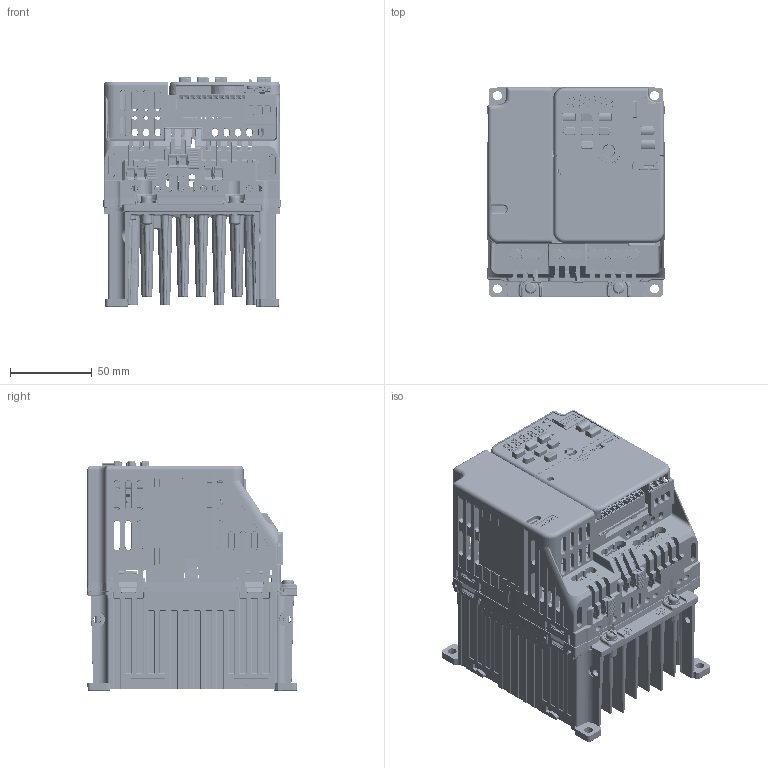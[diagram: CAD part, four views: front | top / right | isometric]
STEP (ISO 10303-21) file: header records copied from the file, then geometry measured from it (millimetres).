
FILE_DESCRIPTION((''),'2;1');
FILE_NAME('GA500_STD_FRAME_V2-G_ASM','2019-03-08T',('anm'),('YASKAWA ELECTRIC CORCORATION'),'PRO/ENGINEER BY PARAMETRIC TECHNOLOGY CORPORATION, 2015440','PRO/ENGINEER BY PARAMETRIC TECHNOLOGY CORPORATION, 2015440','');
FILE_SCHEMA(('CONFIG_CONTROL_DESIGN'));
Products named in the file (129): LAY_KIPR-GA50_Q_B006_1; 400-104-198_AF0_1; SCAT41279-1_1; 400-104-226_AF0_1; 400-104-297-01C-4_6PCB_AF0_1; MKDS5NHV_5-ZB-6P35_AF0_1; MKDS5NHV_2-ZB-6P35_AF0_1; ETP761330_6PCB_AF0_ASM_1_ASM; 400-104-297-01C-4_5PCB_AF0_1; MKDS5NHV_2-ZB-6P35_AF1_1; ETP761330_5PCB_AF0_ASM_1_ASM; 400-104-154_AF1_1; 400-104-154_AF0_ASM_1_ASM; 400-104-023-01F-5_1; 95003-2884_1; B12B-PASK-1_1; MANIFOLD_SOLID_BREP_354645; MANIFOLD_SOLID_BREP_354796; MANIFOLD_SOLID_BREP_354947; MANIFOLD_SOLID_BREP_355098; MANIFOLD_SOLID_BREP_355251; MANIFOLD_SOLID_BREP_355402; MANIFOLD_SOLID_BREP_355553; MANIFOLD_SOLID_BREP_355704; MANIFOLD_SOLID_BREP_355855; MANIFOLD_SOLID_BREP_356006; MANIFOLD_SOLID_BREP_356157; 1734753-1_AF1_1_ASM; MANIFOLD_SOLID_BREP_366076; MANIFOLD_SOLID_BREP_366260; MANIFOLD_SOLID_BREP_366444; MANIFOLD_SOLID_BREP_366628; MANIFOLD_SOLID_BREP_366812; MANIFOLD_SOLID_BREP_366963; MANIFOLD_SOLID_BREP_367114; MANIFOLD_SOLID_BREP_367265; MANIFOLD_SOLID_BREP_367416; MANIFOLD_SOLID_BREP_367567; MANIFOLD_SOLID_BREP_367718; MANIFOLD_SOLID_BREP_367869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
Assembly tree (131 placements, depth 6):
  GA500_STD_FRAME_V2-G_ASM
    KIPR-GA50_Q_B006_ASM_2_ASM
      LAY_KIPR-GA50_Q_B006_1
      400-104-198_AF0_1
      SCAT41279-1_1  x2
      400-104-226_AF0_1
      ETP761330_6PCB_AF0_ASM_1_ASM
        400-104-297-01C-4_6PCB_AF0_1
        MKDS5NHV_5-ZB-6P35_AF0_1
        MKDS5NHV_2-ZB-6P35_AF0_1
      ETP761330_5PCB_AF0_ASM_1_ASM
        400-104-297-01C-4_5PCB_AF0_1
        MKDS5NHV_2-ZB-6P35_AF1_1
      400-104-154_AF0_ASM_1_ASM
        400-104-154_AF1_1
      KTC750050-SXXXX_ASM_1_ASM
        400-104-023-01F-5_1
        95003-2884_1
        B12B-PASK-1_1
        1734753-1_AF1_1_ASM
          MANIFOLD_SOLID_BREP_354645
          MANIFOLD_SOLID_BREP_354796
          MANIFOLD_SOLID_BREP_354947
          MANIFOLD_SOLID_BREP_355098
          MANIFOLD_SOLID_BREP_355251
          MANIFOLD_SOLID_BREP_355402
          MANIFOLD_SOLID_BREP_355553
          MANIFOLD_SOLID_BREP_355704
          MANIFOLD_SOLID_BREP_355855
          MANIFOLD_SOLID_BREP_356006
          MANIFOLD_SOLID_BREP_356157
        DHB-PD20-S131N-4P9_AF1_1_ASM
          MANIFOLD_SOLID_BREP_366076
          MANIFOLD_SOLID_BREP_366260
          MANIFOLD_SOLID_BREP_366444
          MANIFOLD_SOLID_BREP_366628
          MANIFOLD_SOLID_BREP_366812
          MANIFOLD_SOLID_BREP_366963
          MANIFOLD_SOLID_BREP_367114
          MANIFOLD_SOLID_BREP_367265
          MANIFOLD_SOLID_BREP_367416
          MANIFOLD_SOLID_BREP_367567
          MANIFOLD_SOLID_BREP_367718
          MANIFOLD_SOLID_BREP_367869
          MANIFOLD_SOLID_BREP_368020
          MANIFOLD_SOLID_BREP_368171
          MANIFOLD_SOLID_BREP_368322
          MANIFOLD_SOLID_BREP_368473
          MANIFOLD_SOLID_BREP_368624
          MANIFOLD_SOLID_BREP_368775
          MANIFOLD_SOLID_BREP_368926
          MANIFOLD_SOLID_BREP_369077
          MANIFOLD_SOLID_BREP_369228
          MANIFOLD_SOLID_BREP_369379
          MANIFOLD_SOLID_BREP_369530
          MANIFOLD_SOLID_BREP_369681
          MANIFOLD_SOLID_BREP_369832
        KARI_SPTA1_9-3P5_AF0_1_ASM
          MANIFOLD_SOLID_BREP_376399
          MANIFOLD_SOLID_BREP_376550
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Bounding box: 108.58 x 128.29 x 140.25 mm (x, y, z)
Volume: 486983.8 mm3; surface area: 362706.7 mm2
Topology: 115 solids, 115 shells, 14965 faces, 40530 edges, 25853 vertices
Faces by surface type: plane 9125, cylinder 3203, cone 920, bspline 911, torus 533, sphere 273
Entity records: 511541 total; most frequent: CARTESIAN_POINT 143227, ORIENTED_EDGE 79580, DIRECTION 71292, EDGE_CURVE 39790, VECTOR 27892, LINE 27892, VERTEX_POINT 25591, AXIS2_PLACEMENT_3D 21700
